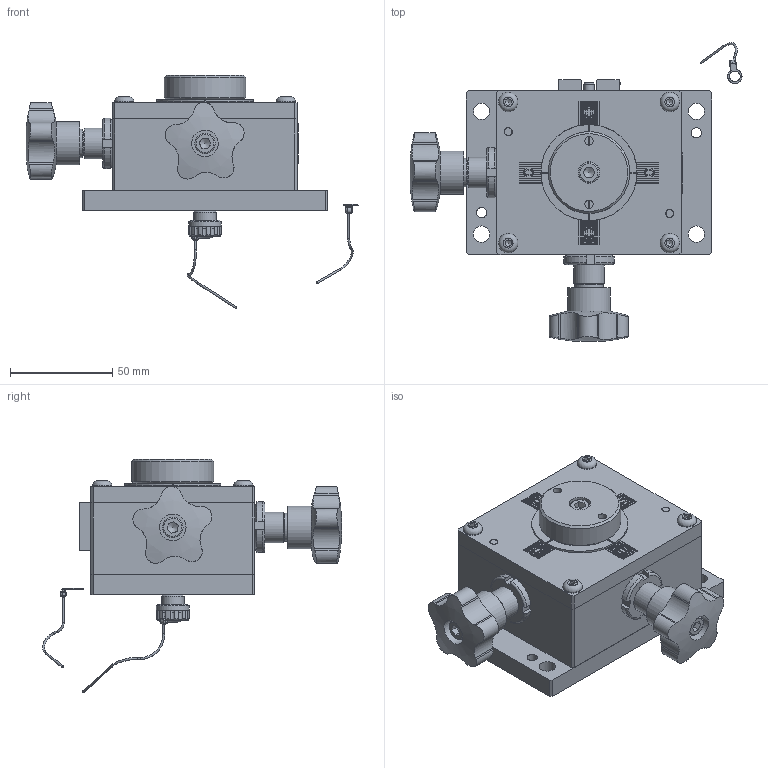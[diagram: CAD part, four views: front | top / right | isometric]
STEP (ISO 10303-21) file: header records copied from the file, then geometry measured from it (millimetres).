
FILE_DESCRIPTION(/* description */ (''),/* implementation_level */ '2;1');
FILE_NAME(/* name */ 'C:\Local Work Area\Progetti\AP\CALIBRI\146.00 Posizionatore\146.00\146.00-SX-L.stp',/* time_stamp */ '2020-02-20T14:57:40+01:00',/* author */ ('CAD5'),/* organization */ (''),/* preprocessor_version */ 'ST-DEVELOPER v17.2',/* originating_system */ 'Autodesk Inventor 2019',/* authorisation */ '');
FILE_SCHEMA (('AUTOMOTIVE_DESIGN { 1 0 10303 214 3 1 1 }'));
Length unit declared in the file: millimetre
Products named in the file (34): 146.00-SX-L; 146.03; 146.01; 146.07; 146.08; 146.02; 146.00_002 Ass manopola-01; 146.09; UNI 5931 - M 6 x  30; Manopola mecanoplastica 12010250; 146.10; UNI 5933 - M4 x 20; UNI 5923 - M6 x 1 x 8; B12.5 UNI8773; GHIERA M15x1 KM2; UNI 5931 - M5 x 0,8 x 16; ISO 2338 - 5 m6 x 20 - A; Copia di ISO 7380 - M5 x 16; ISO 2338 - 5 m6 x 12 - A; 146.06; UNI 5927 - M5 x 6; 146.00_001 Attrezzatura; 146.04; 146.05; UNI 5931 - M 6 x  20; 146.00 Ass spina; ISO 8735 - 8 x 35 - A; VOLANTINO ZIGRINATO - 130 10 100; catenella; catenella-1; catenella-2; UNI ISO 7380 - M5 x 20; TAPPO_001; ISO 8734 - Ø4 x 16 - A (AP)
Assembly tree (44 placements, depth 4):
  146.00-SX-L
    146.03
    146.01
    146.07
    146.08
    146.02
    146.00_002 Ass manopola-01  x2
      146.09
      UNI 5931 - M 6 x  30
      Manopola mecanoplastica 12010250
      146.10
      UNI 5933 - M4 x 20
      UNI 5923 - M6 x 1 x 8
      B12.5 UNI8773
    GHIERA M15x1 KM2  x2
    UNI 5931 - M5 x 0,8 x 16  x4
    ISO 2338 - 5 m6 x 20 - A  x2
    Copia di ISO 7380 - M5 x 16  x4
    ISO 2338 - 5 m6 x 12 - A
    146.06
    UNI 5927 - M5 x 6
    146.00_001 Attrezzatura
      146.04
      146.05
      UNI 5931 - M 6 x  20
    146.00 Ass spina
      ISO 8735 - 8 x 35 - A
      VOLANTINO ZIGRINATO - 130 10 100
      catenella
        catenella-1
        catenella-2
      UNI ISO 7380 - M5 x 20
    TAPPO_001
    ISO 8734 - Ø4 x 16 - A (AP)  x2
Bounding box: 162.33 x 146.22 x 114.1 mm (x, y, z)
Volume: 409203.9 mm3; surface area: 141136.9 mm2
Topology: 49 solids, 49 shells, 1138 faces, 2954 edges, 2014 vertices
Faces by surface type: plane 700, cylinder 228, cone 100, bspline 56, torus 53, sphere 1
Full cylindrical faces by diameter (mm): 1 x6, 3.242 x2, 4 x8, 4.1 x2, 4.134 x14, 4.135 x1, 4.917 x5, 5 x25, 5.2 x2, 5.3 x1, 5.333 x1, 6 x7, 6.1 x1, 6.4 x4, 6.5 x4, 7.64 x2, 8 x15, 8.5 x4, 9 x4, 9.5 x5, 10 x3, 10.5 x1, 11 x1, 11.5 x6, 12 x5, 12.9 x1, 13 x2, 13.867 x1, 13.9 x1, 13.917 x3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
Entity records: 30696 total; most frequent: CARTESIAN_POINT 6688, ORIENTED_EDGE 4664, DIRECTION 4571, EDGE_CURVE 2332, VERTEX_POINT 1604, AXIS2_PLACEMENT_3D 1562, LINE 1447, VECTOR 1447
